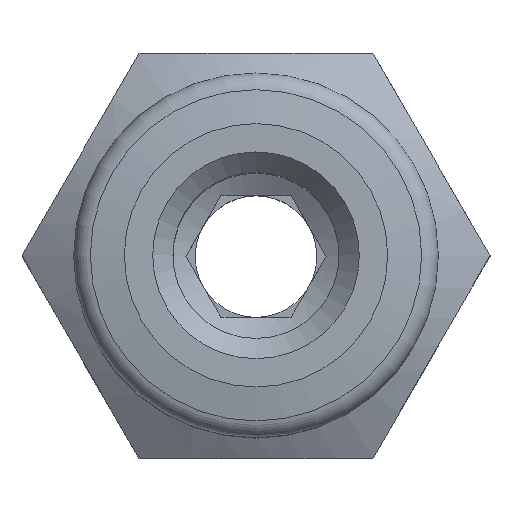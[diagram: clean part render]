
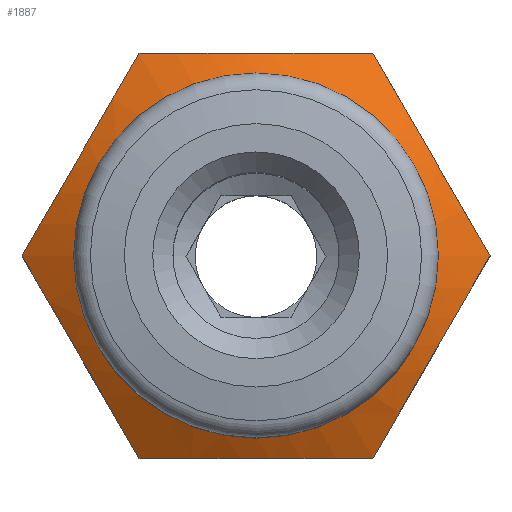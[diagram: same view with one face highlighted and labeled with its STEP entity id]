
A CAD part, top view. The second image highlights one B-rep face of the part: STEP entity #1887.
In plain terms, the highlighted conical face has half-angle 60 degrees and reference radius 9.47 mm.
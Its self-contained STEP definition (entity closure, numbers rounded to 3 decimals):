
#853=HYPERBOLA('',#1770,2.887,5.);
#854=HYPERBOLA('',#1772,2.887,5.);
#855=HYPERBOLA('',#1775,2.887,5.);
#856=HYPERBOLA('',#1776,2.887,5.);
#857=HYPERBOLA('',#1777,2.887,5.);
#858=HYPERBOLA('',#1778,2.887,5.);
#867=CONICAL_SURFACE('',#1773,9.47,60.);
#897=ORIENTED_EDGE('',*,*,#1133,.F.);
#898=ORIENTED_EDGE('',*,*,#1134,.F.);
#899=ORIENTED_EDGE('',*,*,#1135,.F.);
#900=ORIENTED_EDGE('',*,*,#1136,.F.);
#901=ORIENTED_EDGE('',*,*,#1137,.F.);
#902=ORIENTED_EDGE('',*,*,#1131,.F.);
#903=ORIENTED_EDGE('',*,*,#1130,.F.);
#1032=CIRCLE('',#1774,4.5);
#1071=VERTEX_POINT('',#1597);
#1072=VERTEX_POINT('',#1599);
#1073=VERTEX_POINT('',#1603);
#1074=VERTEX_POINT('',#1607);
#1075=VERTEX_POINT('',#1609);
#1076=VERTEX_POINT('',#1611);
#1077=VERTEX_POINT('',#1613);
#1130=EDGE_CURVE('',#1072,#1071,#853,.T.);
#1131=EDGE_CURVE('',#1071,#1073,#854,.T.);
#1133=EDGE_CURVE('',#1074,#1074,#1032,.T.);
#1134=EDGE_CURVE('',#1075,#1072,#855,.T.);
#1135=EDGE_CURVE('',#1076,#1075,#856,.T.);
#1136=EDGE_CURVE('',#1077,#1076,#857,.T.);
#1137=EDGE_CURVE('',#1073,#1077,#858,.T.);
#1201=EDGE_LOOP('',(#897));
#1202=EDGE_LOOP('',(#898,#899,#900,#901,#902,#903));
#1277=FACE_BOUND('',#1201,.T.);
#1278=FACE_BOUND('',#1202,.T.);
#1375=DIRECTION('',(0.,0.,-1.));
#1376=DIRECTION('',(0.,-1.,0.));
#1379=DIRECTION('',(0.866,0.,-0.5));
#1380=DIRECTION('',(0.,-1.,0.));
#1382=DIRECTION('',(0.,-1.,0.));
#1383=DIRECTION('',(1.,0.,0.));
#1384=DIRECTION('',(0.,1.,0.));
#1385=DIRECTION('',(4.5,0.,0.));
#1386=DIRECTION('',(-0.866,0.,-0.5));
#1387=DIRECTION('',(0.,-1.,0.));
#1388=DIRECTION('',(-0.866,0.,0.5));
#1389=DIRECTION('',(0.,-1.,0.));
#1390=DIRECTION('',(0.,0.,1.));
#1391=DIRECTION('',(0.,-1.,0.));
#1392=DIRECTION('',(0.866,0.,0.5));
#1393=DIRECTION('',(0.,-1.,0.));
#1597=CARTESIAN_POINT('',(14.607,26.435,5.));
#1599=CARTESIAN_POINT('',(20.381,26.435,5.));
#1601=CARTESIAN_POINT('',(17.494,29.769,5.));
#1603=CARTESIAN_POINT('',(11.72,26.435,0.));
#1604=CARTESIAN_POINT('',(13.164,29.769,2.5));
#1606=CARTESIAN_POINT('',(17.494,24.301,0.));
#1607=CARTESIAN_POINT('',(21.994,27.171,0.));
#1608=CARTESIAN_POINT('',(17.494,27.171,0.));
#1609=CARTESIAN_POINT('',(23.267,26.435,0.));
#1610=CARTESIAN_POINT('',(21.824,29.769,2.5));
#1611=CARTESIAN_POINT('',(20.381,26.435,-5.));
#1612=CARTESIAN_POINT('',(21.824,29.769,-2.5));
#1613=CARTESIAN_POINT('',(14.607,26.435,-5.));
#1614=CARTESIAN_POINT('',(17.494,29.769,-5.));
#1615=CARTESIAN_POINT('',(13.164,29.769,-2.5));
#1770=AXIS2_PLACEMENT_3D('',#1601,#1375,#1376);
#1772=AXIS2_PLACEMENT_3D('',#1604,#1379,#1380);
#1773=AXIS2_PLACEMENT_3D('',#1606,#1382,#1383);
#1774=AXIS2_PLACEMENT_3D('',#1608,#1384,#1385);
#1775=AXIS2_PLACEMENT_3D('',#1610,#1386,#1387);
#1776=AXIS2_PLACEMENT_3D('',#1612,#1388,#1389);
#1777=AXIS2_PLACEMENT_3D('',#1614,#1390,#1391);
#1778=AXIS2_PLACEMENT_3D('',#1615,#1392,#1393);
#1887=ADVANCED_FACE('',(#1277,#1278),#867,.T.);
